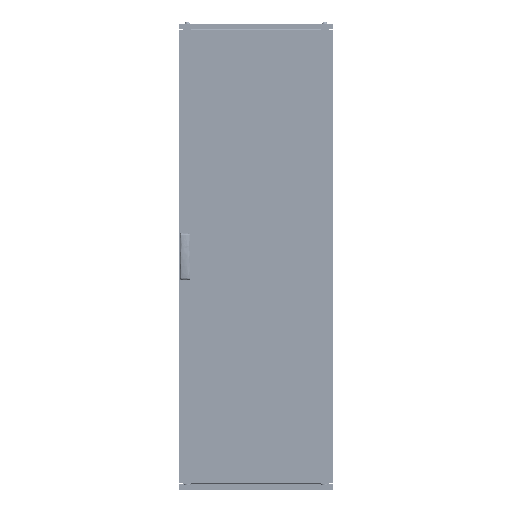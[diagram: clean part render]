
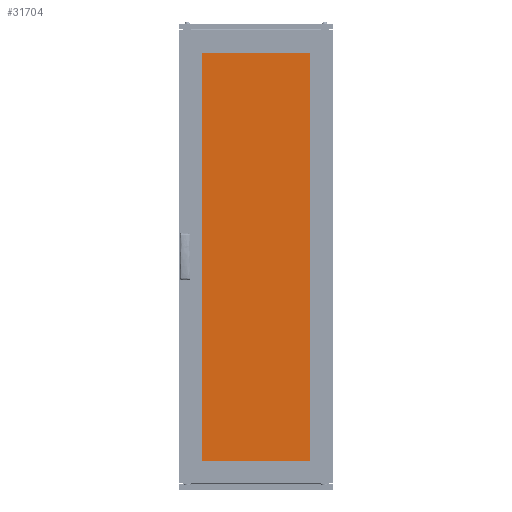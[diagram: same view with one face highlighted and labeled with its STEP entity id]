
A CAD part, top view. The second image highlights one B-rep face of the part: STEP entity #31704.
In plain terms, the highlighted planar face has unit normal (0, 0, 1).
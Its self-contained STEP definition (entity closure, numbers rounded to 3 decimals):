
#9028 = CARTESIAN_POINT ( 'NONE',  ( 230., 810., 5. ) ) ;
#10952 = CARTESIAN_POINT ( 'NONE',  ( -230., -810., 5. ) ) ;
#11500 = CARTESIAN_POINT ( 'NONE',  ( 230., -810., 5. ) ) ;
#31704 = ADVANCED_FACE ( 'NONE', ( #63904 ), #49390, .F. ) ;
#42861 = ORIENTED_EDGE ( 'NONE', *, *, #68775, .T. ) ;
#49390 = PLANE ( 'NONE',  #149110 ) ;
#52404 = VECTOR ( 'NONE', #91558, 1000. ) ;
#56953 = VERTEX_POINT ( 'NONE', #128670 ) ;
#57142 = VECTOR ( 'NONE', #178065, 1000. ) ;
#63904 = FACE_OUTER_BOUND ( 'NONE', #181565, .T. ) ;
#68775 = EDGE_CURVE ( 'NONE', #173938, #80490, #154014, .T. ) ;
#72265 = EDGE_CURVE ( 'NONE', #87212, #173938, #111347, .T. ) ;
#73065 = DIRECTION ( 'NONE',  ( -1., 0., 0. ) ) ;
#77043 = CARTESIAN_POINT ( 'NONE',  ( -230., -810., 5. ) ) ;
#80490 = VERTEX_POINT ( 'NONE', #9028 ) ;
#87212 = VERTEX_POINT ( 'NONE', #10952 ) ;
#91558 = DIRECTION ( 'NONE',  ( 0., 1., 0. ) ) ;
#94104 = DIRECTION ( 'NONE',  ( -1., 0., 0. ) ) ;
#101349 = CARTESIAN_POINT ( 'NONE',  ( 230., -810., 5. ) ) ;
#103116 = ORIENTED_EDGE ( 'NONE', *, *, #179006, .T. ) ;
#109443 = ORIENTED_EDGE ( 'NONE', *, *, #72265, .T. ) ;
#109752 = CARTESIAN_POINT ( 'NONE',  ( 0., 0., 5. ) ) ;
#111347 = LINE ( 'NONE', #77043, #160525 ) ;
#114678 = CARTESIAN_POINT ( 'NONE',  ( -230., -810., 5. ) ) ;
#117201 = EDGE_CURVE ( 'NONE', #80490, #56953, #123932, .T. ) ;
#123932 = LINE ( 'NONE', #187407, #143544 ) ;
#124855 = DIRECTION ( 'NONE',  ( 1., 0., 0. ) ) ;
#128670 = CARTESIAN_POINT ( 'NONE',  ( -230., 810., 5. ) ) ;
#143544 = VECTOR ( 'NONE', #73065, 1000. ) ;
#144030 = DIRECTION ( 'NONE',  ( 0., 0., -1. ) ) ;
#146909 = LINE ( 'NONE', #114678, #57142 ) ;
#149110 = AXIS2_PLACEMENT_3D ( 'NONE', #109752, #144030, #94104 ) ;
#154014 = LINE ( 'NONE', #11500, #52404 ) ;
#160525 = VECTOR ( 'NONE', #124855, 1000. ) ;
#173938 = VERTEX_POINT ( 'NONE', #101349 ) ;
#178065 = DIRECTION ( 'NONE',  ( 0., -1., 0. ) ) ;
#179006 = EDGE_CURVE ( 'NONE', #56953, #87212, #146909, .T. ) ;
#179962 = ORIENTED_EDGE ( 'NONE', *, *, #117201, .T. ) ;
#181565 = EDGE_LOOP ( 'NONE', ( #42861, #179962, #103116, #109443 ) ) ;
#187407 = CARTESIAN_POINT ( 'NONE',  ( -230., 810., 5. ) ) ;
